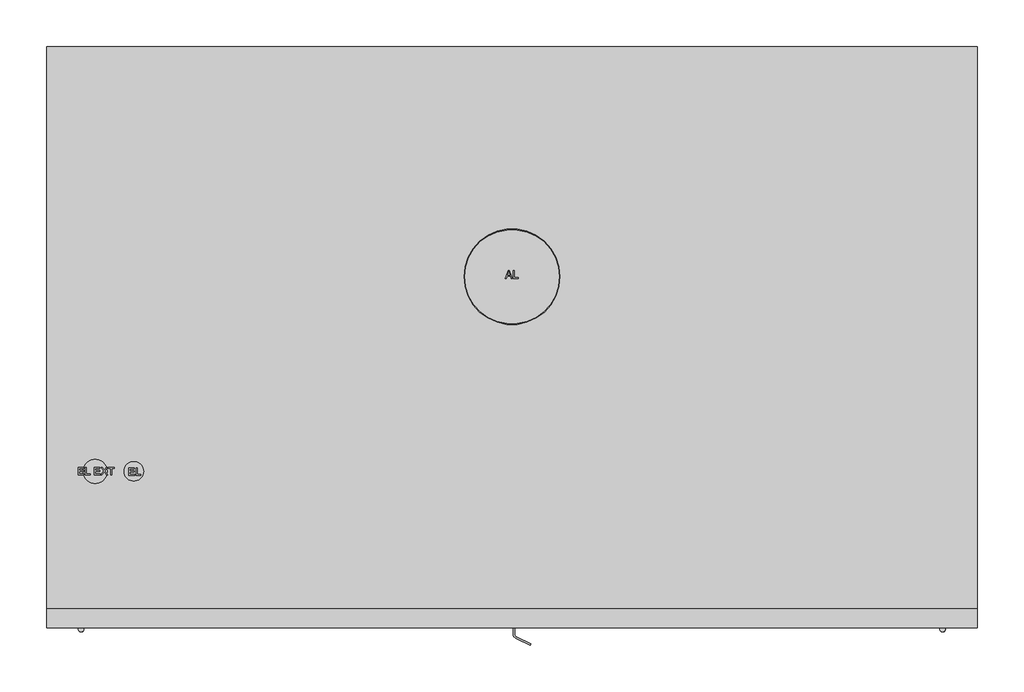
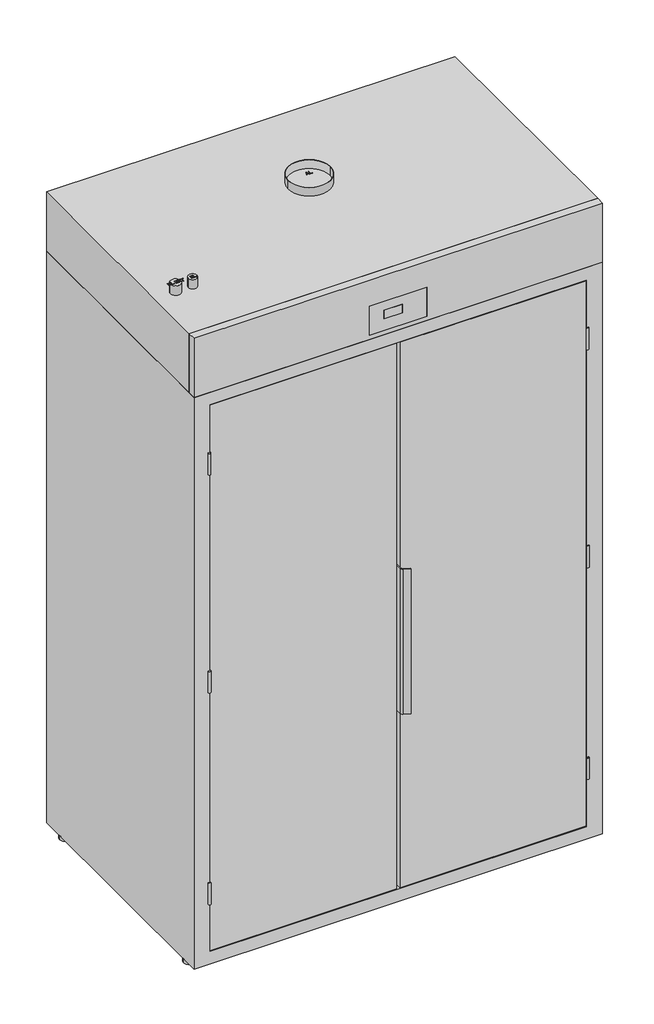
# Not in any storey: 1 proxy.
"""IFC4 building model written with IfcOpenShell, lengths in millimetres."""

from ifc_helpers import new_model, si_unit, origin, place, context, project, spatial, transform, mapped, element, save
from components import specialty_equipment_54005537

model = new_model("IFC4")

# Units and contexts
model_context = context("Model", 3, world=origin())
ifc_project = project(units=[si_unit("LENGTHUNIT", "METRE", prefix="MILLI")], contexts=[model_context])

# Site, building
site = spatial("IfcSite", under=ifc_project)
building = spatial("IfcBuilding", under=site)

# Proxy
placement = place(None, origin())
specialty_equipment_shape = specialty_equipment_54005537(model_context)
element("IfcBuildingElementProxy", 1, Name="12173360_EU_DC120WW : 52120001_EU_12173360_DC120WW", ObjectType="12173360_EU_DC120WW : 52120001_EU_12173360_DC120WW", at=placement, inside=building, context=model_context, shape_type="MappedRepresentation", body=[
    mapped(specialty_equipment_shape, transform((0.0, 0.0, 0.0), x_axis=(1.0, 0.0, 0.0), y_axis=(0.0, 1.0, 0.0), z_axis=(0.0, 0.0, 1.0))),
])

save(model, "model.ifc")
